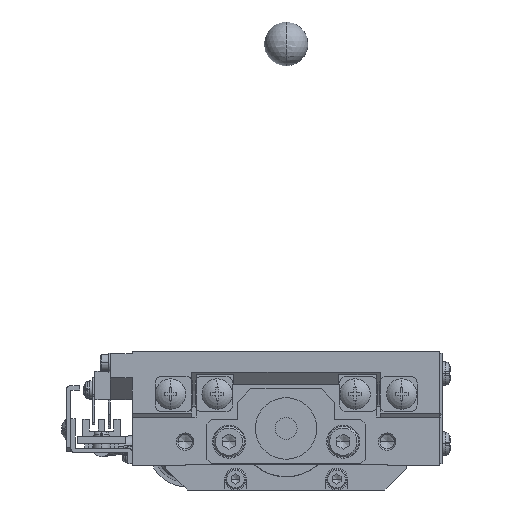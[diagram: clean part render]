
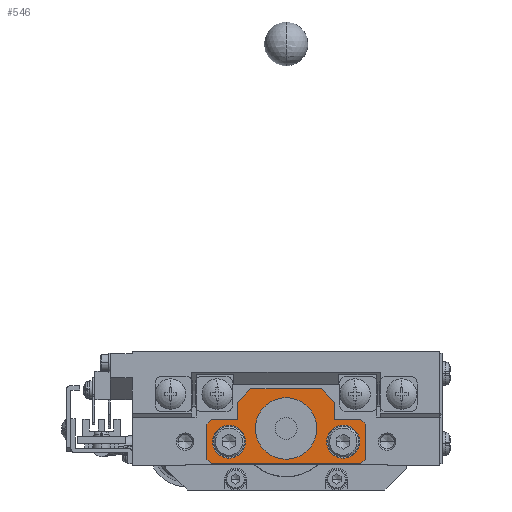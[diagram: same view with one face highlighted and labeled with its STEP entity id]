
A CAD part, left-side view. The second image highlights one B-rep face of the part: STEP entity #546.
In plain terms, the highlighted planar face has unit normal (-1, 0, 0).
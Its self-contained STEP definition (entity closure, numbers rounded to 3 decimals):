
#546=ADVANCED_FACE('',(#6459,#6460,#6461,#6462),#6458,.T.);
#6458=PLANE('',#34558);
#6459=FACE_OUTER_BOUND('',#34559,.T.);
#6460=FACE_BOUND('',#34560,.T.);
#6461=FACE_BOUND('',#34561,.T.);
#6462=FACE_BOUND('',#34562,.T.);
#34555=CARTESIAN_POINT('',(-39.5,21.6,-1.2));
#34556=DIRECTION('',(-1.,0.,0.));
#34557=DIRECTION('',(0.,-1.,0.));
#34558=AXIS2_PLACEMENT_3D('',#34555,#34556,#34557);
#34559=EDGE_LOOP('',(#52435,#52436,#52437,#52438,#52439,#52440,#52441,#52442,#52443,#52444,#52445,#52446,#52447,#52448));
#34560=EDGE_LOOP('',(#52449,#52450));
#34561=EDGE_LOOP('',(#52451,#52452,#52453));
#34562=EDGE_LOOP('',(#52454,#52455));
#52435=ORIENTED_EDGE('',*,*,#66597,.T.);
#52436=ORIENTED_EDGE('',*,*,#66578,.T.);
#52437=ORIENTED_EDGE('',*,*,#66598,.T.);
#52438=ORIENTED_EDGE('',*,*,#66575,.T.);
#52439=ORIENTED_EDGE('',*,*,#66599,.T.);
#52440=ORIENTED_EDGE('',*,*,#66601,.T.);
#52441=ORIENTED_EDGE('',*,*,#66580,.T.);
#52442=ORIENTED_EDGE('',*,*,#66583,.T.);
#52443=ORIENTED_EDGE('',*,*,#66585,.T.);
#52444=ORIENTED_EDGE('',*,*,#66587,.T.);
#52445=ORIENTED_EDGE('',*,*,#66589,.T.);
#52446=ORIENTED_EDGE('',*,*,#66591,.T.);
#52447=ORIENTED_EDGE('',*,*,#66593,.T.);
#52448=ORIENTED_EDGE('',*,*,#66595,.T.);
#52449=ORIENTED_EDGE('',*,*,#66602,.T.);
#52450=ORIENTED_EDGE('',*,*,#66603,.T.);
#52451=ORIENTED_EDGE('',*,*,#66604,.F.);
#52452=ORIENTED_EDGE('',*,*,#66605,.F.);
#52453=ORIENTED_EDGE('',*,*,#66606,.F.);
#52454=ORIENTED_EDGE('',*,*,#66607,.T.);
#52455=ORIENTED_EDGE('',*,*,#66608,.T.);
#66575=EDGE_CURVE('',#79870,#79863,#79871,.T.);
#66578=EDGE_CURVE('',#79890,#79883,#79891,.T.);
#66580=EDGE_CURVE('',#79903,#79904,#79905,.T.);
#66583=EDGE_CURVE('',#79904,#79923,#79924,.T.);
#66585=EDGE_CURVE('',#79923,#79936,#79937,.T.);
#66587=EDGE_CURVE('',#79936,#79949,#79950,.T.);
#66589=EDGE_CURVE('',#79949,#79962,#79963,.T.);
#66591=EDGE_CURVE('',#79962,#79975,#79976,.T.);
#66593=EDGE_CURVE('',#79975,#79988,#79989,.T.);
#66595=EDGE_CURVE('',#79988,#80001,#80002,.T.);
#66597=EDGE_CURVE('',#80001,#79890,#80014,.T.);
#66598=EDGE_CURVE('',#79883,#79870,#80020,.T.);
#66599=EDGE_CURVE('',#79863,#80026,#80027,.T.);
#66601=EDGE_CURVE('',#80026,#79903,#80039,.T.);
#66602=EDGE_CURVE('',#80045,#80046,#80047,.T.);
#66603=EDGE_CURVE('',#80046,#80045,#80053,.T.);
#66604=EDGE_CURVE('',#80059,#80060,#80061,.T.);
#66605=EDGE_CURVE('',#80067,#80059,#80068,.T.);
#66606=EDGE_CURVE('',#80060,#80067,#80074,.T.);
#66607=EDGE_CURVE('',#80080,#80081,#80082,.T.);
#66608=EDGE_CURVE('',#80081,#80080,#80088,.T.);
#79863=VERTEX_POINT('',#126521);
#79870=VERTEX_POINT('',#126525);
#79871=LINE('',#126526,#126527);
#79883=VERTEX_POINT('',#126532);
#79890=VERTEX_POINT('',#126536);
#79891=LINE('',#126537,#126538);
#79903=VERTEX_POINT('',#126543);
#79904=VERTEX_POINT('',#126544);
#79905=LINE('',#126545,#126546);
#79923=VERTEX_POINT('',#126554);
#79924=LINE('',#126555,#126556);
#79936=VERTEX_POINT('',#126561);
#79937=LINE('',#126562,#126563);
#79949=VERTEX_POINT('',#126568);
#79950=LINE('',#126569,#126570);
#79962=VERTEX_POINT('',#126575);
#79963=LINE('',#126576,#126577);
#79975=VERTEX_POINT('',#126582);
#79976=LINE('',#126583,#126584);
#79988=VERTEX_POINT('',#126589);
#79989=LINE('',#126590,#126591);
#80001=VERTEX_POINT('',#126596);
#80002=LINE('',#126597,#126598);
#80014=LINE('',#126603,#126604);
#80020=LINE('',#126606,#126607);
#80026=VERTEX_POINT('',#126609);
#80027=LINE('',#126610,#126611);
#80039=LINE('',#126616,#126617);
#80045=VERTEX_POINT('',#126619);
#80046=VERTEX_POINT('',#126620);
#80047=CIRCLE('',#126624,3.75);
#80053=CIRCLE('',#126628,3.75);
#80059=VERTEX_POINT('',#126629);
#80060=VERTEX_POINT('',#126630);
#80061=CIRCLE('',#126634,7.);
#80067=VERTEX_POINT('',#126635);
#80068=CIRCLE('',#126639,7.);
#80074=CIRCLE('',#126643,7.);
#80080=VERTEX_POINT('',#126644);
#80081=VERTEX_POINT('',#126645);
#80082=CIRCLE('',#126649,3.75);
#80088=CIRCLE('',#126653,3.75);
#126521=CARTESIAN_POINT('',(-39.5,11.,14.5));
#126525=CARTESIAN_POINT('',(-39.5,8.,17.5));
#126526=CARTESIAN_POINT('',(-39.5,8.,17.5));
#126527=VECTOR('',#126528,4.243);
#126528=DIRECTION('',(0.,0.707,-0.707));
#126532=CARTESIAN_POINT('',(-39.5,-8.,17.5));
#126536=CARTESIAN_POINT('',(-39.5,-11.,14.5));
#126537=CARTESIAN_POINT('',(-39.5,-11.,14.5));
#126538=VECTOR('',#126539,4.243);
#126539=DIRECTION('',(0.,0.707,0.707));
#126543=CARTESIAN_POINT('',(-39.5,17.,10.5));
#126544=CARTESIAN_POINT('',(-39.5,18.,9.5));
#126545=CARTESIAN_POINT('',(-39.5,17.,10.5));
#126546=VECTOR('',#126547,1.414);
#126547=DIRECTION('',(0.,0.707,-0.707));
#126554=CARTESIAN_POINT('',(-39.5,18.,1.5));
#126555=CARTESIAN_POINT('',(-39.5,18.,9.5));
#126556=VECTOR('',#126557,8.);
#126557=DIRECTION('',(0.,0.,-1.));
#126561=CARTESIAN_POINT('',(-39.5,17.,0.5));
#126562=CARTESIAN_POINT('',(-39.5,18.,1.5));
#126563=VECTOR('',#126564,1.414);
#126564=DIRECTION('',(0.,-0.707,-0.707));
#126568=CARTESIAN_POINT('',(-39.5,-17.,0.5));
#126569=CARTESIAN_POINT('',(-39.5,17.,0.5));
#126570=VECTOR('',#126571,34.);
#126571=DIRECTION('',(0.,-1.,0.));
#126575=CARTESIAN_POINT('',(-39.5,-18.,1.5));
#126576=CARTESIAN_POINT('',(-39.5,-17.,0.5));
#126577=VECTOR('',#126578,1.414);
#126578=DIRECTION('',(0.,-0.707,0.707));
#126582=CARTESIAN_POINT('',(-39.5,-18.,9.5));
#126583=CARTESIAN_POINT('',(-39.5,-18.,1.5));
#126584=VECTOR('',#126585,8.);
#126585=DIRECTION('',(0.,0.,1.));
#126589=CARTESIAN_POINT('',(-39.5,-17.,10.5));
#126590=CARTESIAN_POINT('',(-39.5,-18.,9.5));
#126591=VECTOR('',#126592,1.414);
#126592=DIRECTION('',(0.,0.707,0.707));
#126596=CARTESIAN_POINT('',(-39.5,-11.,10.5));
#126597=CARTESIAN_POINT('',(-39.5,-17.,10.5));
#126598=VECTOR('',#126599,6.);
#126599=DIRECTION('',(0.,1.,0.));
#126603=CARTESIAN_POINT('',(-39.5,-11.,10.5));
#126604=VECTOR('',#126605,4.);
#126605=DIRECTION('',(0.,0.,1.));
#126606=CARTESIAN_POINT('',(-39.5,-8.,17.5));
#126607=VECTOR('',#126608,16.);
#126608=DIRECTION('',(0.,1.,0.));
#126609=CARTESIAN_POINT('',(-39.5,11.,10.5));
#126610=CARTESIAN_POINT('',(-39.5,11.,14.5));
#126611=VECTOR('',#126612,4.);
#126612=DIRECTION('',(0.,0.,-1.));
#126616=CARTESIAN_POINT('',(-39.5,11.,10.5));
#126617=VECTOR('',#126618,6.);
#126618=DIRECTION('',(0.,1.,0.));
#126619=CARTESIAN_POINT('',(-39.5,16.75,5.5));
#126620=CARTESIAN_POINT('',(-39.5,9.25,5.5));
#126621=CARTESIAN_POINT('',(-39.5,13.,5.5));
#126622=DIRECTION('',(1.,0.,0.));
#126623=DIRECTION('',(0.,1.,0.));
#126624=AXIS2_PLACEMENT_3D('',#126621,#126622,#126623);
#126625=CARTESIAN_POINT('',(-39.5,13.,5.5));
#126626=DIRECTION('',(1.,0.,0.));
#126627=DIRECTION('',(0.,1.,0.));
#126628=AXIS2_PLACEMENT_3D('',#126625,#126626,#126627);
#126629=CARTESIAN_POINT('',(-39.5,7.,8.5));
#126630=CARTESIAN_POINT('',(-39.5,0.,1.5));
#126631=CARTESIAN_POINT('',(-39.5,0.,8.5));
#126632=DIRECTION('',(-1.,0.,0.));
#126633=DIRECTION('',(0.,0.,-1.));
#126634=AXIS2_PLACEMENT_3D('',#126631,#126632,#126633);
#126635=CARTESIAN_POINT('',(-39.5,-7.,8.501));
#126636=CARTESIAN_POINT('',(-39.5,0.,8.5));
#126637=DIRECTION('',(-1.,0.,0.));
#126638=DIRECTION('',(0.,0.,-1.));
#126639=AXIS2_PLACEMENT_3D('',#126636,#126637,#126638);
#126640=CARTESIAN_POINT('',(-39.5,0.,8.5));
#126641=DIRECTION('',(-1.,0.,0.));
#126642=DIRECTION('',(0.,0.,-1.));
#126643=AXIS2_PLACEMENT_3D('',#126640,#126641,#126642);
#126644=CARTESIAN_POINT('',(-39.5,-9.25,5.5));
#126645=CARTESIAN_POINT('',(-39.5,-16.75,5.5));
#126646=CARTESIAN_POINT('',(-39.5,-13.,5.5));
#126647=DIRECTION('',(1.,0.,0.));
#126648=DIRECTION('',(0.,1.,0.));
#126649=AXIS2_PLACEMENT_3D('',#126646,#126647,#126648);
#126650=CARTESIAN_POINT('',(-39.5,-13.,5.5));
#126651=DIRECTION('',(1.,0.,0.));
#126652=DIRECTION('',(0.,1.,0.));
#126653=AXIS2_PLACEMENT_3D('',#126650,#126651,#126652);
